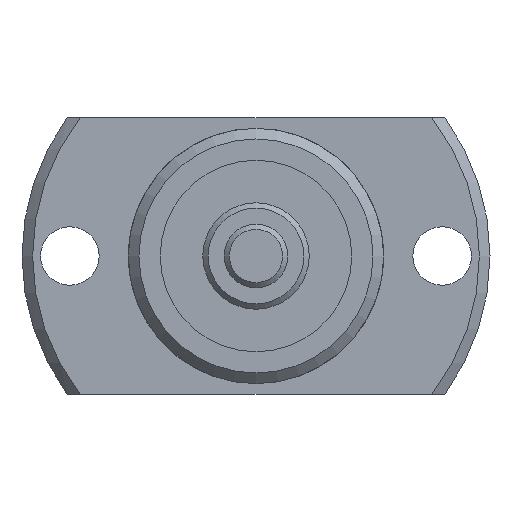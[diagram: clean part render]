
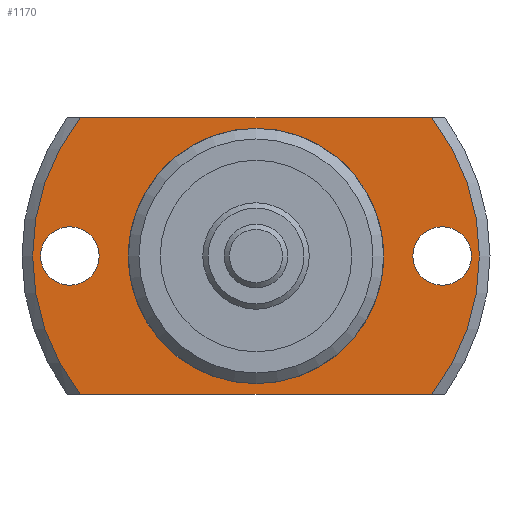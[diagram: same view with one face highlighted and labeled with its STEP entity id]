
A CAD part, left-side view. The second image highlights one B-rep face of the part: STEP entity #1170.
In plain terms, the highlighted planar face has unit normal (-1, 0, 0).
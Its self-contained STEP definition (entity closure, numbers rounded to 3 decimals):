
#121=CIRCLE('',#1303,11.75);
#124=CIRCLE('',#1307,21.);
#130=CIRCLE('',#1318,2.75);
#131=CIRCLE('',#1319,2.75);
#132=CIRCLE('',#1320,21.);
#274=ORIENTED_EDGE('',*,*,#541,.T.);
#275=ORIENTED_EDGE('',*,*,#542,.T.);
#276=ORIENTED_EDGE('',*,*,#530,.F.);
#277=ORIENTED_EDGE('',*,*,#543,.T.);
#278=ORIENTED_EDGE('',*,*,#544,.F.);
#279=ORIENTED_EDGE('',*,*,#545,.T.);
#280=ORIENTED_EDGE('',*,*,#524,.T.);
#524=EDGE_CURVE('',#670,#670,#121,.T.);
#530=EDGE_CURVE('',#675,#676,#124,.T.);
#541=EDGE_CURVE('',#685,#685,#130,.T.);
#542=EDGE_CURVE('',#686,#686,#131,.T.);
#543=EDGE_CURVE('',#675,#687,#760,.T.);
#544=EDGE_CURVE('',#688,#687,#132,.T.);
#545=EDGE_CURVE('',#688,#676,#761,.T.);
#670=VERTEX_POINT('',#1916);
#675=VERTEX_POINT('',#1930);
#676=VERTEX_POINT('',#1932);
#685=VERTEX_POINT('',#1966);
#686=VERTEX_POINT('',#1968);
#687=VERTEX_POINT('',#1970);
#688=VERTEX_POINT('',#1972);
#760=LINE('',#1969,#820);
#761=LINE('',#1973,#821);
#820=VECTOR('',#1583,1000.);
#821=VECTOR('',#1586,1000.);
#914=EDGE_LOOP('',(#274));
#915=EDGE_LOOP('',(#275));
#916=EDGE_LOOP('',(#276,#277,#278,#279));
#917=EDGE_LOOP('',(#280));
#1034=FACE_BOUND('',#914,.T.);
#1035=FACE_BOUND('',#915,.T.);
#1036=FACE_BOUND('',#916,.T.);
#1037=FACE_BOUND('',#917,.T.);
#1111=PLANE('',#1317);
#1170=ADVANCED_FACE('',(#1034,#1035,#1036,#1037),#1111,.F.);
#1303=AXIS2_PLACEMENT_3D('',#1915,#1545,#1546);
#1307=AXIS2_PLACEMENT_3D('',#1931,#1555,#1556);
#1317=AXIS2_PLACEMENT_3D('',#1964,#1577,#1578);
#1318=AXIS2_PLACEMENT_3D('',#1965,#1579,#1580);
#1319=AXIS2_PLACEMENT_3D('',#1967,#1581,#1582);
#1320=AXIS2_PLACEMENT_3D('',#1971,#1584,#1585);
#1545=DIRECTION('',(1.,0.,0.));
#1546=DIRECTION('',(0.,0.,-1.));
#1555=DIRECTION('',(1.,0.,0.));
#1556=DIRECTION('',(0.,0.,-1.));
#1577=DIRECTION('',(1.,0.,0.));
#1578=DIRECTION('',(0.,0.,-1.));
#1579=DIRECTION('',(1.,0.,0.));
#1580=DIRECTION('',(0.,0.,-1.));
#1581=DIRECTION('',(1.,0.,0.));
#1582=DIRECTION('',(0.,0.,-1.));
#1583=DIRECTION('',(0.,-1.,0.));
#1584=DIRECTION('',(1.,0.,0.));
#1585=DIRECTION('',(0.,0.,-1.));
#1586=DIRECTION('',(0.,1.,0.));
#1915=CARTESIAN_POINT('',(23.,0.,0.));
#1916=CARTESIAN_POINT('',(23.,0.,-11.75));
#1930=CARTESIAN_POINT('',(23.,16.492,-13.));
#1931=CARTESIAN_POINT('',(23.,0.,0.));
#1932=CARTESIAN_POINT('',(23.,16.492,13.));
#1964=CARTESIAN_POINT('',(23.,11.75,0.));
#1965=CARTESIAN_POINT('',(23.,-17.5,0.));
#1966=CARTESIAN_POINT('',(23.,-17.5,-2.75));
#1967=CARTESIAN_POINT('',(23.,17.5,0.));
#1968=CARTESIAN_POINT('',(23.,17.5,-2.75));
#1969=CARTESIAN_POINT('',(23.,11.75,-13.));
#1970=CARTESIAN_POINT('',(23.,-16.492,-13.));
#1971=CARTESIAN_POINT('',(23.,0.,0.));
#1972=CARTESIAN_POINT('',(23.,-16.492,13.));
#1973=CARTESIAN_POINT('',(23.,11.75,13.));
